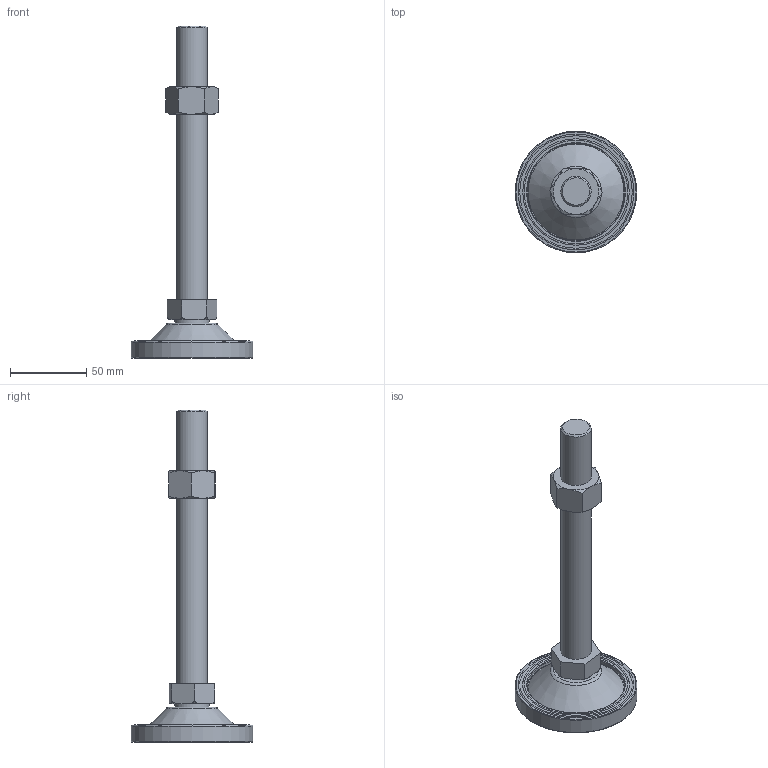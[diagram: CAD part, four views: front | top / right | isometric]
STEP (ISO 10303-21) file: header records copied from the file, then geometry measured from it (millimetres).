
FILE_DESCRIPTION((' '),'2;1');
FILE_NAME('Y:\00. A standard brand\06. 3D Modeling\외부전송용_STEP\LEVELLING FOOT(STEP)\A-PLR SERIES STEP\A-PLR-20-180.stp.stp','2011-11-22T18:44:50',(' '),(' '),' ','ACIS',' ');
FILE_SCHEMA(('CONFIG_CONTROL_DESIGN'));
Length unit declared in the file: millimetre
Products named in the file (1): Y:\00. A standard brand\06. 3D Modeling\외부전송용_STEP\LEVELLING FOOT(STEP)\A-PLR SERIES STEP\A-PLR-20-180.stp.stp
Bounding box: 80 x 80 x 218.31 mm (x, y, z)
Volume: 122308.1 mm3; surface area: 39122 mm2
Topology: 3 solids, 4 shells, 115 faces, 255 edges, 159 vertices
Faces by surface type: plane 56, cylinder 20, cone 17, torus 15, bspline 7
Full cylindrical faces by diameter (mm): 8 x1, 12 x2, 19.27 x1, 20 x2, 23 x1, 36 x1, 51 x1, 64 x2, 80 x1
Entity records: 3416 total; most frequent: CARTESIAN_POINT 997, DIRECTION 480, ORIENTED_EDGE 426, EDGE_CURVE 213, AXIS2_PLACEMENT_3D 194, EDGE_LOOP 162, VERTEX_POINT 150, FACE_OUTER_BOUND 115
